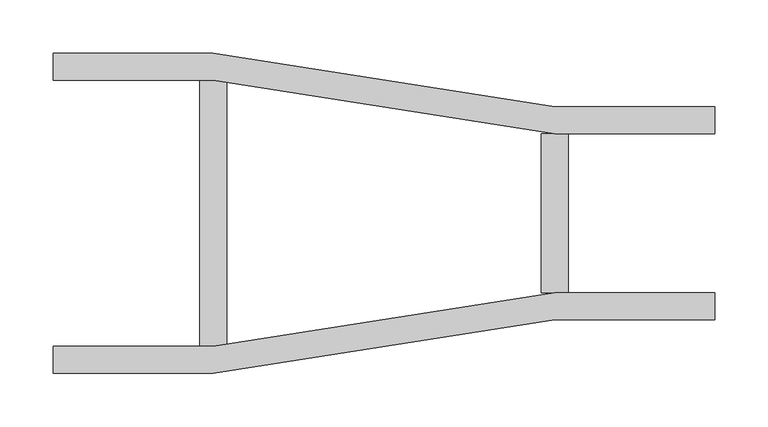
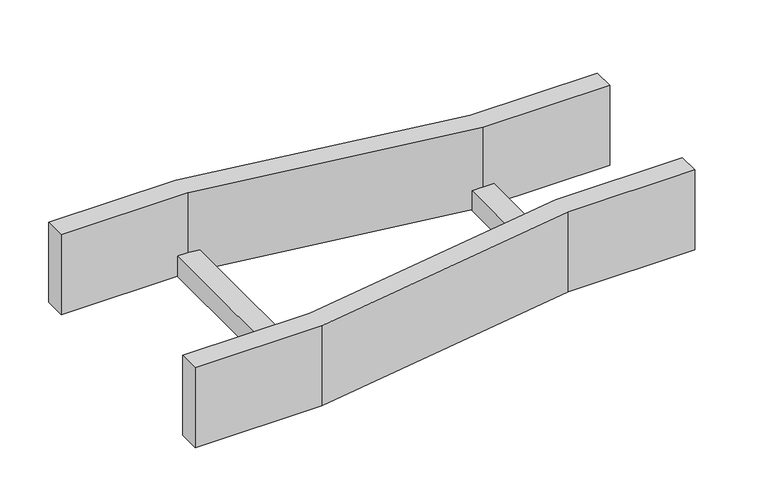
"""IFC4 building model written with IfcOpenShell, lengths in millimetres: cable carrier fitting geometry, BAKS_LDLS_RED_Straight reducer_RDS : R(S/L/P)DSC_H100."""

from ifc_helpers import new_model, si_unit, frame, origin, place, context, project, spatial, polyline, outline, extrude, source, transform, mapped, element, save


def cable_carrier_fitting_26a6f095(model_context):
    return source(origin(), model_context, "Body", "SweptSolid", [
        extrude(outline(polyline([(0.0, -150.0), (0.0, -124.6), (150.0, -124.6), (470.0, -74.6), (620.0, -74.6), (620.0, -100.0), (470.0, -100.0), (150.0, -150.0), (0.0, -150.0)])), frame((0.0, 0.0, -50.0), z_axis=(0.0, 0.0, 1.0), x_axis=(1.0, 0.0, 0.0)), (0.0, 0.0, 1.0), 100.0),
        extrude(outline(polyline([(0.0, 124.6), (0.0, 150.0), (150.0, 150.0), (470.0, 100.0), (620.0, 100.0), (620.0, 74.6), (470.0, 74.6), (150.0, 124.6), (0.0, 124.6)])), frame((0.0, 0.0, -50.0), z_axis=(0.0, 0.0, 1.0), x_axis=(1.0, 0.0, 0.0)), (0.0, 0.0, 1.0), 100.0),
        extrude(outline(polyline([(457.3, 74.6), (482.7, 74.6), (482.7, -74.6), (457.3, -74.6), (457.3, 74.6)])), frame((0.0, 0.0, -50.0), z_axis=(0.0, 0.0, 1.0), x_axis=(1.0, 0.0, 0.0)), (0.0, 0.0, 1.0), 25.4),
        extrude(outline(polyline([(137.3, 124.6), (162.7, 124.6), (162.7, -124.6), (137.3, -124.6), (137.3, 124.6)])), frame((0.0, 0.0, -50.0), z_axis=(0.0, 0.0, 1.0), x_axis=(1.0, 0.0, 0.0)), (0.0, 0.0, 1.0), 25.4),
    ])


if __name__ == "__main__":
    model = new_model("IFC4")
    model_context = context("Model", 3, world=origin())
    ifc_project = project(units=[si_unit("LENGTHUNIT", "METRE", prefix="MILLI")], contexts=[model_context])
    site = spatial("IfcSite", under=ifc_project)
    building = spatial("IfcBuilding", under=site)
    placement = place(None, origin())
    cable_carrier_fitting_shape = cable_carrier_fitting_26a6f095(model_context)
    element("IfcCableCarrierFitting", 1, ObjectType="BAKS_LDLS_RED_Straight reducer_RDS : R(S/L/P)DSC_H100", at=placement, inside=building, context=model_context, shape_type="MappedRepresentation", body=[
        mapped(cable_carrier_fitting_shape, transform((0.0, 0.0, 0.0), x_axis=(1.0, 0.0, 0.0), y_axis=(0.0, 1.0, 0.0), z_axis=(0.0, 0.0, 1.0))),
    ])
    save(model, "model.ifc")
